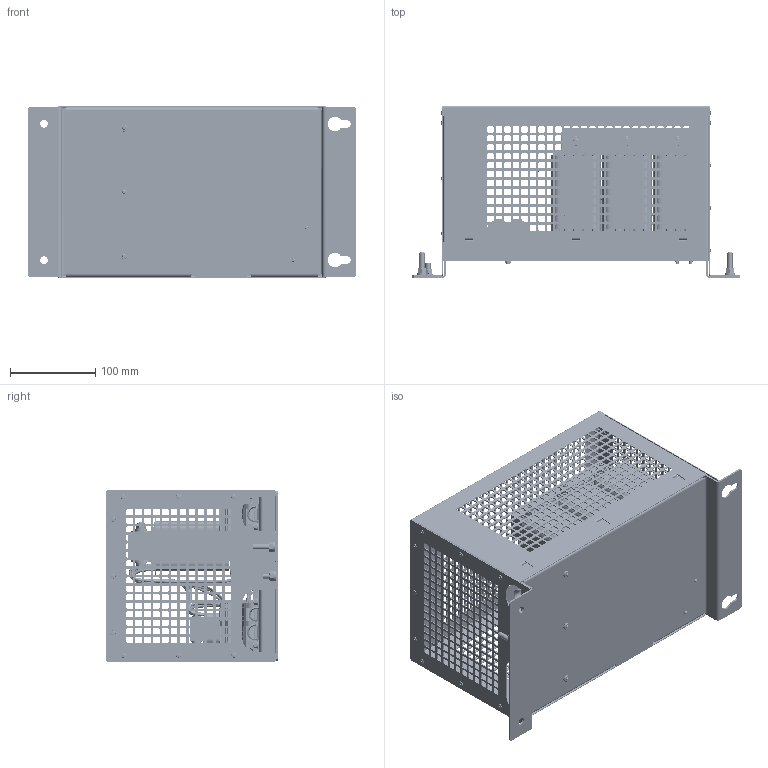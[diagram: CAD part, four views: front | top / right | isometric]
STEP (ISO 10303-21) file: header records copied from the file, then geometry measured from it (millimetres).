
FILE_DESCRIPTION((''),'2;1');
FILE_NAME('8A_COVER','2015-05-29T',('ED0010'),(''),'PRO/ENGINEER BY PARAMETRIC TECHNOLOGY CORPORATION, 2009360','PRO/ENGINEER BY PARAMETRIC TECHNOLOGY CORPORATION, 2009360','');
FILE_SCHEMA(('CONFIG_CONTROL_DESIGN'));
Products named in the file (1): 8A_COVER
Bounding box: 386 x 202.3 x 202 mm (x, y, z)
Surface area: 1294304.2 mm2 (no closed solid volume)
Topology: 0 solids, 316 shells, 21594 faces, 60062 edges, 39301 vertices
Faces by surface type: plane 11225, cylinder 8875, cone 624, bspline 464, torus 240, sphere 166
Entity records: 735535 total; most frequent: CARTESIAN_POINT 163086, ORIENTED_EDGE 120064, DIRECTION 119941, EDGE_CURVE 60032, AXIS2_PLACEMENT_3D 40422, VERTEX_POINT 39301, VECTOR 39097, LINE 39097
